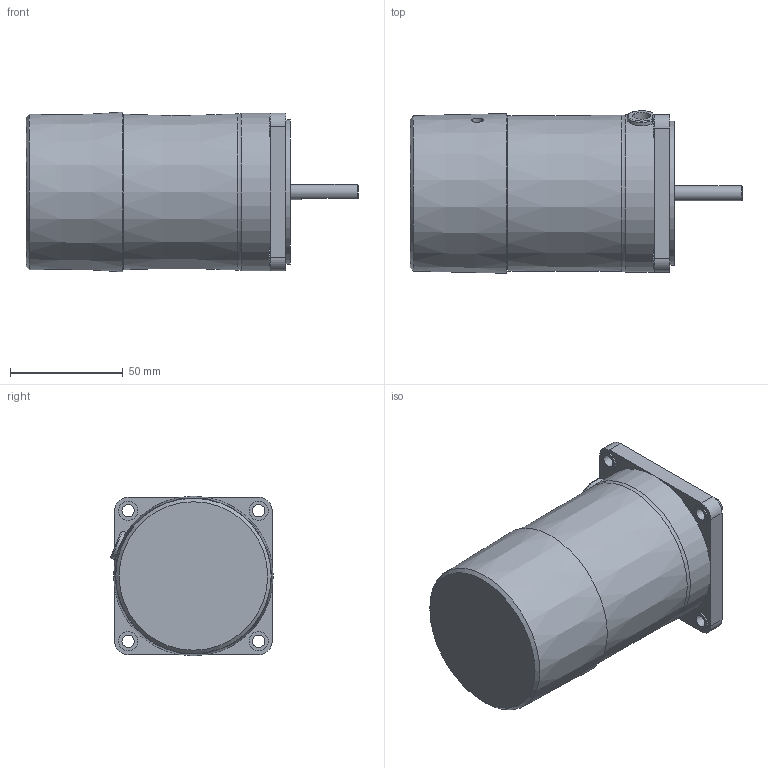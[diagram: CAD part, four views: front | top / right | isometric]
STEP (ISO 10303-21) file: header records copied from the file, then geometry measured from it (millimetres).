
FILE_DESCRIPTION((''),'2;1');
FILE_NAME('D:\STP파일\15W MOTOR\BLACK TYPE\S7R15D-E.stp','2013-05-20T16:00:23',('leebh'),(''),'Autodesk Inventor 2011','Autodesk Inventor 2011','');
FILE_SCHEMA(('AUTOMOTIVE_DESIGN { 1 0 10303 214 1 1 1 1 }'));
Length unit declared in the file: millimetre
Products named in the file (1): 부품2
Bounding box: 147.5 x 72.2 x 70.94 mm (x, y, z)
Volume: 443873.9 mm3; surface area: 39100.7 mm2
Topology: 1 solids, 3 shells, 93 faces, 217 edges, 143 vertices
Faces by surface type: plane 53, cylinder 33, cone 5, torus 2
Full cylindrical faces by diameter (mm): 5 x1, 5.5 x4, 6.7 x1, 8 x1, 8.5 x4, 10 x1, 28 x1, 64 x1, 68 x1, 70 x1
Entity records: 2623 total; most frequent: CARTESIAN_POINT 519, DIRECTION 448, ORIENTED_EDGE 378, EDGE_CURVE 189, AXIS2_PLACEMENT_3D 176, EDGE_LOOP 137, VERTEX_POINT 136, VECTOR 96
